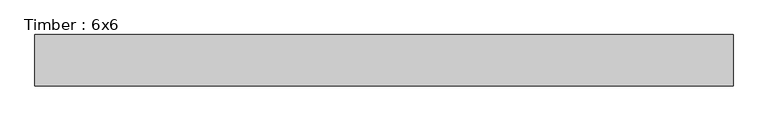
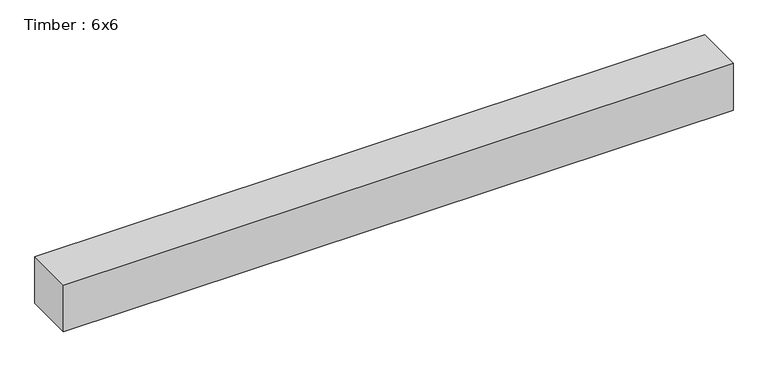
"""IFC4 building model written with IfcOpenShell, lengths in millimetres: beam geometry, Timber : 6x6."""

from ifc_helpers import new_model, si_unit, frame, origin, place, context, project, spatial, polyline, outline, extrude, source, transform, mapped, element, save


def timber_6x6_1bf3a8f5(model_context):
    return source(origin(), model_context, "Body", "SweptSolid", [
        extrude(outline(polyline([(946.15, 69.85), (946.15, -69.85), (-946.15, -69.85), (-946.15, 69.85), (946.15, 69.85)])), frame((0.0, 0.0, -69.85), z_axis=(0.0, 0.0, 1.0), x_axis=(1.0, 0.0, 0.0)), (0.0, 0.0, 1.0), 139.7),
    ])


if __name__ == "__main__":
    model = new_model("IFC4")
    model_context = context("Model", 3, world=origin())
    ifc_project = project(units=[si_unit("LENGTHUNIT", "METRE", prefix="MILLI")], contexts=[model_context])
    site = spatial("IfcSite", under=ifc_project)
    building = spatial("IfcBuilding", under=site)
    placement = place(None, origin())
    timber_6x6_shape = timber_6x6_1bf3a8f5(model_context)
    element("IfcBeam", 1, ObjectType="Timber : 6x6", at=placement, inside=building, context=model_context, shape_type="MappedRepresentation", body=[
        mapped(timber_6x6_shape, transform((0.0, 0.0, 0.0), x_axis=(1.0, 0.0, 0.0), y_axis=(0.0, 1.0, 0.0), z_axis=(0.0, 0.0, 1.0))),
    ])
    save(model, "model.ifc")
